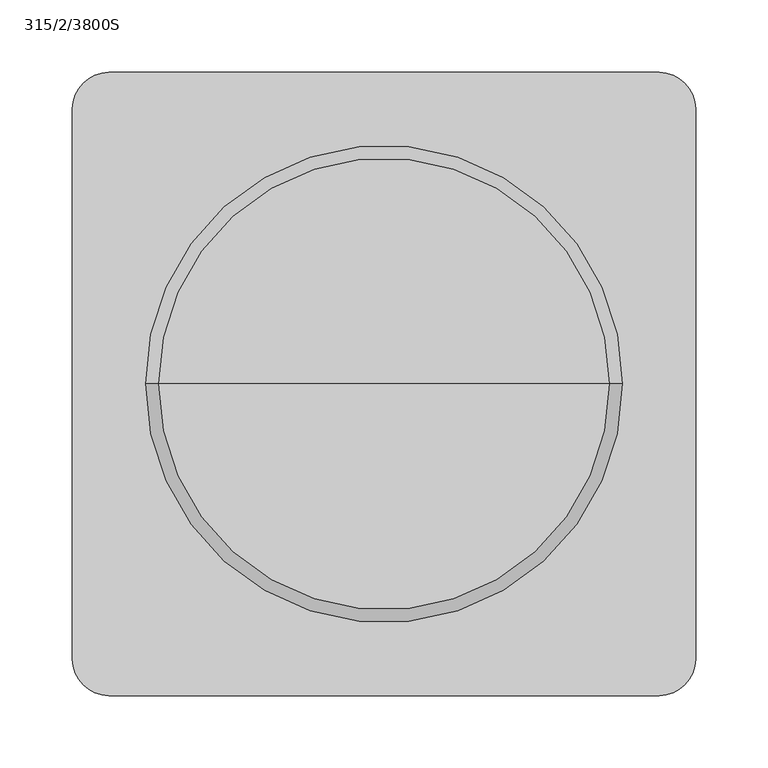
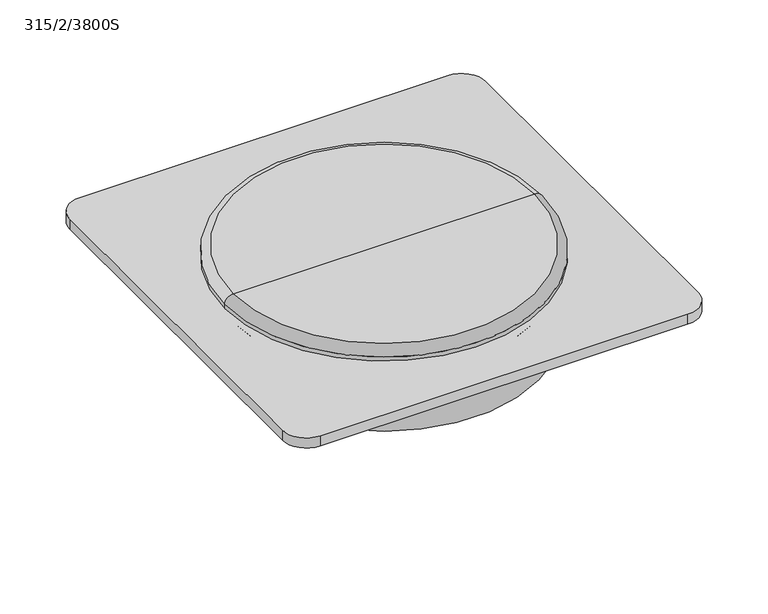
"""IFC4 building model written with IfcOpenShell, lengths in millimetres: unitary equipment geometry, VE-Wentylator-ParaForma-Harmann-WAF-Wywiewny : 315/2/3800S."""

from ifc_helpers import new_model, si_unit, point, frame, frame_2d, origin, origin_with_axes, origin_2d, place, context, project, spatial, polyline, circle_curve, ellipse_curve, trimmed, segment, composite_curve, outline, extrude, source, transform, mapped, element, save
from ifc_brep_helpers import plane_surface, cylinder_surface, revolved_surface, advanced_brep


def unitary_equipment_315_2_3800s_33b267a5(model_context):
    return source(origin(), model_context, "Body", "SolidModel", [
        advanced_brep(
        [(164.5, 0.0, 11.0), (-164.5, 0.0, 11.0), (0.0, 0.0, 11.0), (164.5, 0.0, 15.3333333), (-164.5, 0.0, 15.3333333), (155.8333333, 0.0, 24.0), (-155.8333333, 0.0, 24.0), (0.0, 0.0, 24.0)],
        [
            (0, 1, circle_curve(frame((0.0, 0.0, 11.0), z_axis=(0.0, 0.0, -1.0), x_axis=(-1.0000000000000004, 0.0, 0.0)), 164.5)),
            (1, 2),
            (2, 0),
            (1, 0, circle_curve(frame((0.0, 0.0, 11.0), z_axis=(0.0, 0.0, -1.0), x_axis=(-1.0000000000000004, 0.0, 0.0)), 164.5)),
            (3, 4, circle_curve(frame((0.0, 0.0, 15.3333333), z_axis=(0.0, 0.0, -1.0), x_axis=(-1.0000000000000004, 0.0, 0.0)), 164.5)),
            (4, 1),
            (0, 3),
            (4, 3, circle_curve(frame((0.0, 0.0, 15.3333333), z_axis=(0.0, 0.0, -1.0), x_axis=(-1.0000000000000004, 0.0, 0.0)), 164.5)),
            (5, 6, circle_curve(frame((0.0, 0.0, 24.0), z_axis=(0.0, 0.0, -1.0), x_axis=(-1.0000000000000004, 0.0, 0.0)), 155.8333333)),
            (6, 4, circle_curve(frame((-155.8333333, 0.0, 15.3333333), z_axis=(0.0, -1.0000000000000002, 0.0), x_axis=(0.0, 0.0, -1.0000000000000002)), 8.6666667)),
            (3, 5, circle_curve(frame((155.8333333, 0.0, 15.3333333), z_axis=(0.0, -1.0000000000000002, 0.0), x_axis=(0.0, 0.0, -1.0000000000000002)), 8.6666667)),
            (6, 5, circle_curve(frame((0.0, 0.0, 24.0), z_axis=(0.0, 0.0, -1.0), x_axis=(-1.0000000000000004, 0.0, 0.0)), 155.8333333)),
            (7, 6),
            (5, 7),
        ],
        [
            plane_surface(frame((0.0, 0.0, 11.0), z_axis=(0.0, 0.0, -1.0), x_axis=(-1.0, 0.0, 0.0))),
            cylinder_surface(frame((0.0, 0.0, 24.0), z_axis=(0.0, 0.0, 1.0000000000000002), x_axis=(-1.0000000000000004, 0.0, 0.0)), 164.5),
            revolved_surface(trimmed(ellipse_curve(frame((-155.8333333, 0.0, 15.3333333), z_axis=(0.0, 1.0000000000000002, 0.0), x_axis=(0.0, 0.0, -1.0000000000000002)), 8.6666667, 8.6666667), [point((-164.5, 0.0, 15.3333333))], [point((-155.8333333, 0.0, 24.0))], True, "CARTESIAN"), (0.0, 0.0, 24.0), (0.0, 0.0, 1.0000000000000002)),
            plane_surface(frame((0.0, 0.0, 24.0), z_axis=(0.0, 0.0, 1.0), x_axis=(-1.0, 0.0, 0.0))),
        ],
        [
            (0, [[1, 2, 3]]),
            (0, [[4, -3, -2]]),
            (1, [[5, 6, -1, 7]]),
            (1, [[8, -7, -4, -6]]),
            (2, [[9, 10, -5, 11]]),
            (2, [[12, -11, -8, -10]]),
            (3, [[13, -9, 14]]),
            (3, [[-14, -12, -13]]),
        ],
    ),
        extrude(outline(composite_curve([segment(trimmed(circle_curve(origin_2d(), 49.35), [point((49.35, 0.0))], [point((-49.35, 0.0))], False, "CARTESIAN"), True, "CONTINUOUS"), segment(trimmed(circle_curve(origin_2d(), 49.35), [point((-49.35, 0.0))], [point((49.35, 0.0))], False, "CARTESIAN"), True, "CONTINUOUS")], self_intersect=False)), frame((0.0, 0.0, -114.0), z_axis=(0.0, 0.0, 1.0), x_axis=(1.0, 0.0, 0.0)), (0.0, 0.0, 1.0), 45.0),
        advanced_brep(
        [(0.0, 0.0, 0.0), (-164.5, 0.0, 0.0), (164.5, 0.0, 0.0), (160.0, 0.0, -69.0), (-160.0, 0.0, -69.0), (0.0, 0.0, -69.0), (160.0, 0.0, -4.5), (-160.0, 0.0, -4.5)],
        [
            (0, 1),
            (1, 2, circle_curve(frame((0.0, 0.0, 0.0), z_axis=(0.0, 0.0, 1.0), x_axis=(-1.0000000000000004, 0.0, 0.0)), 164.5)),
            (2, 0),
            (2, 1, circle_curve(frame((0.0, 0.0, 0.0), z_axis=(0.0, 0.0, 1.0), x_axis=(-1.0000000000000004, 0.0, 0.0)), 164.5)),
            (3, 4, circle_curve(frame((0.0, 0.0, -69.0), z_axis=(0.0, 0.0, -1.0), x_axis=(-1.0000000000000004, 0.0, 0.0)), 160.0)),
            (4, 5),
            (5, 3),
            (4, 3, circle_curve(frame((0.0, 0.0, -69.0), z_axis=(0.0, 0.0, -1.0), x_axis=(-1.0000000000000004, 0.0, 0.0)), 160.0)),
            (6, 7, circle_curve(frame((0.0, 0.0, -4.5), z_axis=(0.0, 0.0, -1.0), x_axis=(-1.0000000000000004, 0.0, 0.0)), 160.0)),
            (7, 4),
            (3, 6),
            (7, 6, circle_curve(frame((0.0, 0.0, -4.5), z_axis=(0.0, 0.0, -1.0), x_axis=(-1.0000000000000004, 0.0, 0.0)), 160.0)),
            (1, 7, circle_curve(frame((-164.5, 0.0, -4.5), z_axis=(0.0, 1.0000000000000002, 0.0), x_axis=(0.0, 0.0, -1.0000000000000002)), 4.5)),
            (6, 2, circle_curve(frame((164.5, 0.0, -4.5), z_axis=(0.0, 1.0000000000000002, 0.0), x_axis=(0.0, 0.0, -1.0000000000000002)), 4.5)),
        ],
        [
            plane_surface(frame((0.0, 0.0, 0.0), z_axis=(0.0, 0.0, 1.0), x_axis=(-1.0, 0.0, 0.0))),
            plane_surface(frame((0.0, 0.0, -69.0), z_axis=(0.0, 0.0, -1.0), x_axis=(-1.0, 0.0, 0.0))),
            cylinder_surface(frame((0.0, 0.0, 0.0), z_axis=(0.0, 0.0, 1.0000000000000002), x_axis=(-1.0000000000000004, 0.0, 0.0)), 160.0),
            revolved_surface(trimmed(ellipse_curve(frame((-164.5, 0.0, -4.5), z_axis=(0.0, -1.0000000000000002, 0.0), x_axis=(0.0, 0.0, -1.0000000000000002)), 4.5, 4.5), [point((-160.0, 0.0, -4.5))], [point((-164.5, 0.0, 0.0))], True, "CARTESIAN"), (0.0, 0.0, 0.0), (0.0, 0.0, 1.0000000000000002)),
        ],
        [
            (0, [[1, 2, 3]]),
            (0, [[-3, 4, -1]]),
            (1, [[5, 6, 7]]),
            (1, [[8, -7, -6]]),
            (2, [[9, 10, -5, 11]]),
            (2, [[12, -11, -8, -10]]),
            (3, [[-2, 13, -9, 14]]),
            (3, [[-4, -14, -12, -13]]),
        ],
    ),
        extrude(outline(composite_curve([segment(polyline([(190.0, -215.0), (-190.0, -215.0)]), True, "CONTINUOUS"), segment(trimmed(circle_curve(frame_2d((-190.0, -190.0)), 25.0), [point((-190.0, -215.0))], [point((-215.0, -190.0))], False, "CARTESIAN"), True, "CONTINUOUS"), segment(polyline([(-215.0, -190.0), (-215.0, 190.0)]), True, "CONTINUOUS"), segment(trimmed(circle_curve(frame_2d((-190.0, 190.0)), 25.0), [point((-215.0, 190.0))], [point((-190.0, 215.0))], False, "CARTESIAN"), True, "CONTINUOUS"), segment(polyline([(-190.0, 215.0), (190.0, 215.0)]), True, "CONTINUOUS"), segment(trimmed(circle_curve(frame_2d((190.0, 190.0)), 25.0), [point((190.0, 215.0))], [point((215.0, 190.0))], False, "CARTESIAN"), True, "CONTINUOUS"), segment(polyline([(215.0, 190.0), (215.0, -190.0)]), True, "CONTINUOUS"), segment(trimmed(circle_curve(frame_2d((190.0, -190.0)), 25.0), [point((215.0, -190.0))], [point((190.0, -215.0))], False, "CARTESIAN"), True, "CONTINUOUS")], self_intersect=False)), origin_with_axes(), (0.0, 0.0, 1.0), 11.0),
    ])


if __name__ == "__main__":
    model = new_model("IFC4")
    model_context = context("Model", 3, world=origin())
    ifc_project = project(units=[si_unit("LENGTHUNIT", "METRE", prefix="MILLI")], contexts=[model_context])
    site = spatial("IfcSite", under=ifc_project)
    building = spatial("IfcBuilding", under=site)
    placement = place(None, origin())
    unitary_equipment_315_2_3800s_shape = unitary_equipment_315_2_3800s_33b267a5(model_context)
    element("IfcUnitaryEquipment", 1, ObjectType="VE-Wentylator-ParaForma-Harmann-WAF-Wywiewny : 315/2/3800S", at=placement, inside=building, context=model_context, shape_type="MappedRepresentation", body=[
        mapped(unitary_equipment_315_2_3800s_shape, transform((0.0, 0.0, 0.0), x_axis=(1.0, 0.0, 0.0), y_axis=(0.0, 1.0, 0.0), z_axis=(0.0, 0.0, 1.0))),
    ])
    save(model, "model.ifc")
